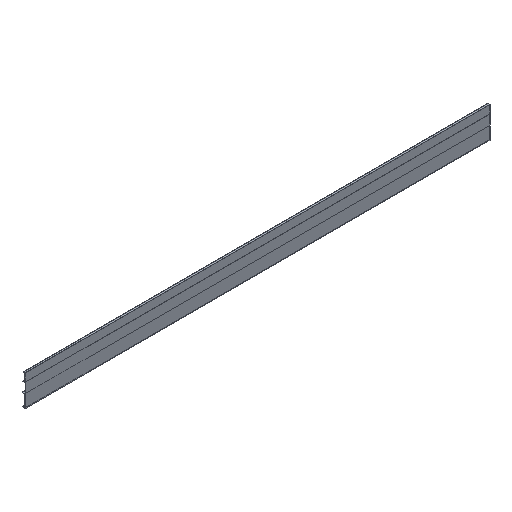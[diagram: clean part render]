
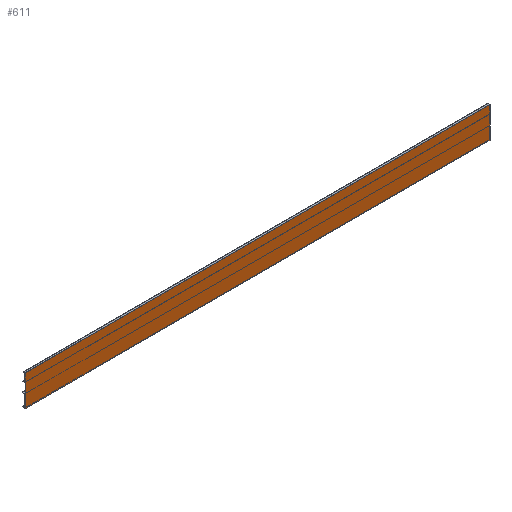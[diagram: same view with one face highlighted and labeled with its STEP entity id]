
A CAD part, isometric view. The second image highlights one B-rep face of the part: STEP entity #611.
In plain terms, the highlighted planar face has unit normal (0, -1, 0).
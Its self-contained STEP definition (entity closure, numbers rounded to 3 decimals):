
#611=ADVANCED_FACE('',(#1094),#1095,.T.);
#1094=FACE_OUTER_BOUND('',#1735,.T.);
#1095=PLANE('',#1736);
#1735=EDGE_LOOP('',(#2325,#2326,#2327,#2328));
#1736=AXIS2_PLACEMENT_3D('',#2329,#2330,#2331);
#2325=ORIENTED_EDGE('',*,*,#2965,.T.);
#2326=ORIENTED_EDGE('',*,*,#2966,.T.);
#2327=ORIENTED_EDGE('',*,*,#2967,.F.);
#2328=ORIENTED_EDGE('',*,*,#2968,.F.);
#2329=CARTESIAN_POINT('',(2500.0,0.,-89.0));
#2330=DIRECTION('',(0.,-1.0,0.));
#2331=DIRECTION('',(0.,0.,1.0));
#2965=EDGE_CURVE('',#3461,#3462,#3463,.T.);
#2966=EDGE_CURVE('',#3462,#3464,#3465,.T.);
#2967=EDGE_CURVE('',#3466,#3464,#3467,.T.);
#2968=EDGE_CURVE('',#3461,#3466,#3468,.T.);
#3461=VERTEX_POINT('',#3881);
#3462=VERTEX_POINT('',#3882);
#3463=LINE('',#3883,#3884);
#3464=VERTEX_POINT('',#3885);
#3465=LINE('',#3886,#3887);
#3466=VERTEX_POINT('',#3888);
#3467=LINE('',#3889,#3890);
#3468=LINE('',#3891,#3892);
#3881=CARTESIAN_POINT('',(2000.0,0.,-133.0));
#3882=CARTESIAN_POINT('',(2000.0,0.,0.0));
#3883=CARTESIAN_POINT('',(2000.0,0.,-89.0));
#3884=VECTOR('',#4237,1.0);
#3885=CARTESIAN_POINT('',(0.0,0.,0.0));
#3886=CARTESIAN_POINT('',(2500.0,0.,0.0));
#3887=VECTOR('',#4238,1.0);
#3888=CARTESIAN_POINT('',(0.0,0.,-133.0));
#3889=CARTESIAN_POINT('',(0.0,0.,-89.0));
#3890=VECTOR('',#4239,1.0);
#3891=CARTESIAN_POINT('',(2500.0,0.,-133.0));
#3892=VECTOR('',#4240,1.0);
#4237=DIRECTION('',(0.,0.,1.0));
#4238=DIRECTION('',(-1.0,0.,0.));
#4239=DIRECTION('',(0.,0.,1.0));
#4240=DIRECTION('',(-1.0,0.,0.));
